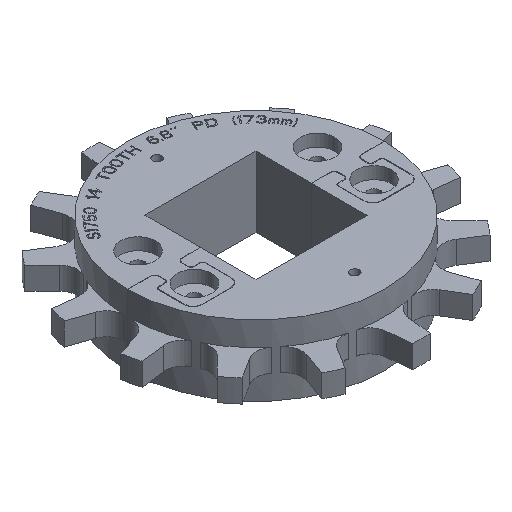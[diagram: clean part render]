
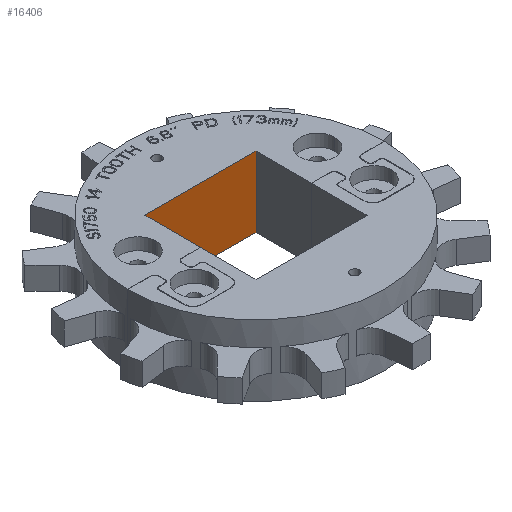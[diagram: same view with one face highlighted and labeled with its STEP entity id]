
A CAD part, isometric view. The second image highlights one B-rep face of the part: STEP entity #16406.
In plain terms, the highlighted planar face has unit normal (0, -1, 0).
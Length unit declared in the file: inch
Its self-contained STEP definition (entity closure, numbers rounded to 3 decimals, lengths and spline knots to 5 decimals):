
#15=DIRECTION('',(-1.,0.,0.));
#16=VECTOR('',#15,2.362);
#17=CARTESIAN_POINT('',(1.181,1.181,-0.75));
#18=LINE('',#17,#16);
#2957=DIRECTION('',(-1.,0.,0.));
#2958=VECTOR('',#2957,2.362);
#2959=CARTESIAN_POINT('',(1.181,1.181,0.75));
#2960=LINE('',#2959,#2958);
#4311=DIRECTION('',(0.,0.,-1.));
#4312=VECTOR('',#4311,1.5);
#4313=CARTESIAN_POINT('',(-1.181,1.181,0.75));
#4314=LINE('',#4313,#4312);
#4315=DIRECTION('',(0.,0.,-1.));
#4316=VECTOR('',#4315,1.5);
#4317=CARTESIAN_POINT('',(1.181,1.181,0.75));
#4318=LINE('',#4317,#4316);
#12624=CARTESIAN_POINT('',(-1.181,1.181,-0.75));
#12626=VERTEX_POINT('',#12624);
#12628=CARTESIAN_POINT('',(1.181,1.181,-0.75));
#12630=VERTEX_POINT('',#12628);
#12632=CARTESIAN_POINT('',(-1.181,1.181,0.75));
#12634=VERTEX_POINT('',#12632);
#12636=CARTESIAN_POINT('',(1.181,1.181,0.75));
#12638=VERTEX_POINT('',#12636);
#16394=CARTESIAN_POINT('',(1.181,1.181,0.9));
#16395=DIRECTION('',(0.,1.,0.));
#16396=DIRECTION('',(-1.,0.,0.));
#16397=AXIS2_PLACEMENT_3D('',#16394,#16395,#16396);
#16398=PLANE('',#16397);
#16399=ORIENTED_EDGE('',*,*,#12646,.T.);
#16400=ORIENTED_EDGE('',*,*,#16389,.F.);
#16401=ORIENTED_EDGE('',*,*,#13178,.F.);
#16403=ORIENTED_EDGE('',*,*,#16402,.T.);
#16404=EDGE_LOOP('',(#16399,#16400,#16401,#16403));
#16405=FACE_OUTER_BOUND('',#16404,.F.);
#16406=ADVANCED_FACE('',(#16405),#16398,.F.);
#12646=EDGE_CURVE('',#12630,#12626,#18,.T.);
#13178=EDGE_CURVE('',#12638,#12634,#2960,.T.);
#16389=EDGE_CURVE('',#12634,#12626,#4314,.T.);
#16402=EDGE_CURVE('',#12638,#12630,#4318,.T.);
